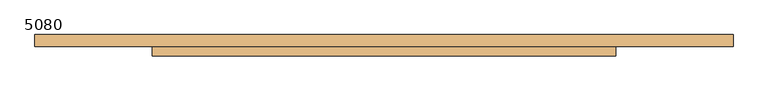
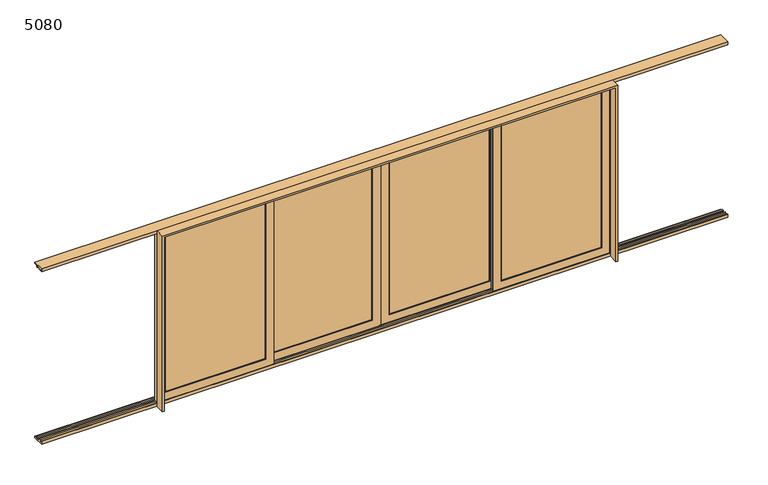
"""IFC4 building model written with IfcOpenShell, lengths in millimetres: door geometry, SGD 4 Panel 2 Track Opposing Exo : 5080."""

from ifc_helpers import new_model, si_unit, frame, origin, place, context, project, spatial, polyline, outline, extrude, faceted_brep, source, transform, mapped, element, save


def door_5080_ef8a3742(model_context):
    return source(origin(), model_context, "Body", "SolidModel", [
        extrude(outline(polyline([(66.675, 2395.7153), (66.675, 2438.4), (217.551, 2438.4), (217.551, 2418.9737224), (209.55, 2418.9737224), (180.975, 2418.1256362), (180.975, 2395.7153), (161.925, 2395.7153), (161.925, 2415.7381969), (120.65, 2415.0164373), (120.65, 2395.7153), (101.6, 2395.7153), (101.6, 2420.5575935), (73.025, 2420.058815), (73.025, 2395.7153), (66.675, 2395.7153)])), frame((-4500.5625, 0.0, 0.0), z_axis=(1.0, 0.0, 0.0), x_axis=(0.0, 1.0, 0.0)), (0.0, 0.0, 1.0), 9001.125),
        extrude(outline(polyline([(66.675, 42.6847), (73.025, 42.6847), (73.025, 18.341185), (101.6, 17.8424065), (101.6, 42.6847), (120.65, 42.6847), (120.65, 23.3835627), (161.925, 22.6618031), (161.925, 42.6847), (180.975, 42.6847), (180.975, 20.2743638), (209.55, 19.4262776), (217.551, 19.4262776), (217.551, 0.0), (66.675, 0.0), (66.675, 42.6847)])), frame((-4500.5625, 0.0, 0.0), z_axis=(1.0, 0.0, 0.0), x_axis=(0.0, 1.0, 0.0)), (0.0, 0.0, 1.0), 9001.125),
        extrude(outline(polyline([(104.775, 184.610375), (1433.5125, 184.610375), (1433.5125, 159.210375), (104.775, 159.210375), (104.775, 184.610375)])), frame((0.0, 0.0, 130.175), z_axis=(0.0, 0.0, 1.0), x_axis=(1.0, 0.0, 0.0)), (0.0, 0.0, 1.0), 2178.05),
        faceted_brep([(1538.2875, 154.051, 2413.0), (1533.525, 149.2885, 2408.2375), (1533.525, 149.2885, 30.1625), (1538.2875, 154.051, 25.4), (4.7625, 149.2885, 2408.2375), (4.7625, 149.2885, 30.1625), (1428.0134, 149.2885, 135.6741), (110.2741, 149.2885, 135.6741), (110.2741, 149.2885, 2302.7259), (1428.0134, 149.2885, 2302.7259), (0.0, 154.051, 25.4), (1538.2875, 192.151, 2413.0), (1538.2875, 192.151, 25.4), (0.0, 192.151, 25.4), (1533.525, 196.9135, 2408.2375), (1533.525, 196.9135, 30.1625), (4.7625, 196.9135, 30.1625), (4.7625, 196.9135, 2408.2375), (1428.0134, 196.9135, 2302.7259), (110.2741, 196.9135, 2302.7259), (110.2741, 196.9135, 135.6741), (1428.0134, 196.9135, 135.6741), (1423.2509, 192.151, 2297.9634), (1423.2509, 192.151, 140.4366), (115.0366, 192.151, 140.4366), (1423.2509, 154.051, 2297.9634), (1423.2509, 154.051, 140.4366), (115.0366, 154.051, 140.4366), (0.0, 154.051, 2413.0), (0.0, 192.151, 2413.0), (115.0366, 192.151, 2297.9634), (115.0366, 154.051, 2297.9634)], [[[0, 1, 2, 3]], [[1, 4, 5, 2], [6, 7, 8, 9]], [[3, 2, 5, 10]], [[11, 0, 3, 12]], [[12, 3, 10, 13]], [[14, 11, 12, 15]], [[15, 12, 13, 16]], [[15, 16, 17, 14], [18, 19, 20, 21]], [[22, 18, 21, 23]], [[23, 21, 20, 24]], [[25, 22, 23, 26]], [[26, 23, 24, 27]], [[9, 25, 26, 6]], [[6, 26, 27, 7]], [[10, 5, 4, 28]], [[13, 10, 28, 29]], [[16, 13, 29, 17]], [[24, 20, 19, 30]], [[27, 24, 30, 31]], [[7, 27, 31, 8]], [[28, 4, 1, 0]], [[29, 28, 0, 11]], [[17, 29, 11, 14]], [[30, 19, 18, 22]], [[31, 30, 22, 25]], [[8, 31, 25, 9]]]),
        extrude(outline(polyline([(-1433.5125, 184.610375), (-104.775, 184.610375), (-104.775, 159.210375), (-1433.5125, 159.210375), (-1433.5125, 184.610375)])), frame((0.0, 0.0, 130.175), z_axis=(0.0, 0.0, 1.0), x_axis=(1.0, 0.0, 0.0)), (0.0, 0.0, 1.0), 2178.05),
        faceted_brep([(0.0, 154.051, 2413.0), (-4.7625, 149.2885, 2408.2375), (-4.7625, 149.2885, 30.1625), (0.0, 154.051, 25.4), (-1533.525, 149.2885, 2408.2375), (-1533.525, 149.2885, 30.1625), (-110.2741, 149.2885, 135.6741), (-1428.0134, 149.2885, 135.6741), (-1428.0134, 149.2885, 2302.7259), (-110.2741, 149.2885, 2302.7259), (-1538.2875, 154.051, 25.4), (0.0, 192.151, 2413.0), (0.0, 192.151, 25.4), (-1538.2875, 192.151, 25.4), (-4.7625, 196.9135, 2408.2375), (-4.7625, 196.9135, 30.1625), (-1533.525, 196.9135, 30.1625), (-1533.525, 196.9135, 2408.2375), (-110.2741, 196.9135, 2302.7259), (-1428.0134, 196.9135, 2302.7259), (-1428.0134, 196.9135, 135.6741), (-110.2741, 196.9135, 135.6741), (-115.0366, 192.151, 2297.9634), (-115.0366, 192.151, 140.4366), (-1423.2509, 192.151, 140.4366), (-115.0366, 154.051, 2297.9634), (-115.0366, 154.051, 140.4366), (-1423.2509, 154.051, 140.4366), (-1538.2875, 154.051, 2413.0), (-1538.2875, 192.151, 2413.0), (-1423.2509, 192.151, 2297.9634), (-1423.2509, 154.051, 2297.9634)], [[[0, 1, 2, 3]], [[1, 4, 5, 2], [6, 7, 8, 9]], [[3, 2, 5, 10]], [[11, 0, 3, 12]], [[12, 3, 10, 13]], [[14, 11, 12, 15]], [[15, 12, 13, 16]], [[15, 16, 17, 14], [18, 19, 20, 21]], [[22, 18, 21, 23]], [[23, 21, 20, 24]], [[25, 22, 23, 26]], [[26, 23, 24, 27]], [[9, 25, 26, 6]], [[6, 26, 27, 7]], [[10, 5, 4, 28]], [[13, 10, 28, 29]], [[16, 13, 29, 17]], [[24, 20, 19, 30]], [[27, 24, 30, 31]], [[7, 27, 31, 8]], [[28, 4, 1, 0]], [[29, 28, 0, 11]], [[17, 29, 11, 14]], [[30, 19, 18, 22]], [[31, 30, 22, 25]], [[8, 31, 25, 9]]]),
        extrude(outline(polyline([(1541.4625, 124.285375), (2870.2, 124.285375), (2870.2, 98.885375), (1541.4625, 98.885375), (1541.4625, 124.285375)])), frame((0.0, 0.0, 130.175), z_axis=(0.0, 0.0, 1.0), x_axis=(1.0, 0.0, 0.0)), (0.0, 0.0, 1.0), 2178.05),
        faceted_brep([(2974.975, 93.726, 2413.0), (2970.2125, 88.9635, 2408.2375), (2970.2125, 88.9635, 30.1625), (2974.975, 93.726, 25.4), (1441.45, 88.9635, 2408.2375), (1441.45, 88.9635, 30.1625), (2864.7009, 88.9635, 135.6741), (1546.9616, 88.9635, 135.6741), (1546.9616, 88.9635, 2302.7259), (2864.7009, 88.9635, 2302.7259), (1436.6875, 93.726, 25.4), (2974.975, 131.826, 2413.0), (2974.975, 131.826, 25.4), (1436.6875, 131.826, 25.4), (2970.2125, 136.5885, 2408.2375), (2970.2125, 136.5885, 30.1625), (1441.45, 136.5885, 30.1625), (1441.45, 136.5885, 2408.2375), (2864.7009, 136.5885, 2302.7259), (1546.9616, 136.5885, 2302.7259), (1546.9616, 136.5885, 135.6741), (2864.7009, 136.5885, 135.6741), (2859.9384, 131.826, 2297.9634), (2859.9384, 131.826, 140.4366), (1551.7241, 131.826, 140.4366), (2859.9384, 93.726, 2297.9634), (2859.9384, 93.726, 140.4366), (1551.7241, 93.726, 140.4366), (1436.6875, 93.726, 2413.0), (1436.6875, 131.826, 2413.0), (1551.7241, 131.826, 2297.9634), (1551.7241, 93.726, 2297.9634)], [[[0, 1, 2, 3]], [[1, 4, 5, 2], [6, 7, 8, 9]], [[3, 2, 5, 10]], [[11, 0, 3, 12]], [[12, 3, 10, 13]], [[14, 11, 12, 15]], [[15, 12, 13, 16]], [[15, 16, 17, 14], [18, 19, 20, 21]], [[22, 18, 21, 23]], [[23, 21, 20, 24]], [[25, 22, 23, 26]], [[26, 23, 24, 27]], [[9, 25, 26, 6]], [[6, 26, 27, 7]], [[10, 5, 4, 28]], [[13, 10, 28, 29]], [[16, 13, 29, 17]], [[24, 20, 19, 30]], [[27, 24, 30, 31]], [[7, 27, 31, 8]], [[28, 4, 1, 0]], [[29, 28, 0, 11]], [[17, 29, 11, 14]], [[30, 19, 18, 22]], [[31, 30, 22, 25]], [[8, 31, 25, 9]]]),
        extrude(outline(polyline([(-2870.2, 124.285375), (-1541.4625, 124.285375), (-1541.4625, 98.885375), (-2870.2, 98.885375), (-2870.2, 124.285375)])), frame((0.0, 0.0, 130.175), z_axis=(0.0, 0.0, 1.0), x_axis=(1.0, 0.0, 0.0)), (0.0, 0.0, 1.0), 2178.05),
        faceted_brep([(-1436.6875, 93.726, 2413.0), (-1441.45, 88.9635, 2408.2375), (-1441.45, 88.9635, 30.1625), (-1436.6875, 93.726, 25.4), (-2970.2125, 88.9635, 2408.2375), (-2970.2125, 88.9635, 30.1625), (-1546.9616, 88.9635, 135.6741), (-2864.7009, 88.9635, 135.6741), (-2864.7009, 88.9635, 2302.7259), (-1546.9616, 88.9635, 2302.7259), (-2974.975, 93.726, 25.4), (-1436.6875, 131.826, 2413.0), (-1436.6875, 131.826, 25.4), (-2974.975, 131.826, 25.4), (-1441.45, 136.5885, 2408.2375), (-1441.45, 136.5885, 30.1625), (-2970.2125, 136.5885, 30.1625), (-2970.2125, 136.5885, 2408.2375), (-1546.9616, 136.5885, 2302.7259), (-2864.7009, 136.5885, 2302.7259), (-2864.7009, 136.5885, 135.6741), (-1546.9616, 136.5885, 135.6741), (-1551.7241, 131.826, 2297.9634), (-1551.7241, 131.826, 140.4366), (-2859.9384, 131.826, 140.4366), (-1551.7241, 93.726, 2297.9634), (-1551.7241, 93.726, 140.4366), (-2859.9384, 93.726, 140.4366), (-2974.975, 93.726, 2413.0), (-2974.975, 131.826, 2413.0), (-2859.9384, 131.826, 2297.9634), (-2859.9384, 93.726, 2297.9634)], [[[0, 1, 2, 3]], [[1, 4, 5, 2], [6, 7, 8, 9]], [[3, 2, 5, 10]], [[11, 0, 3, 12]], [[12, 3, 10, 13]], [[14, 11, 12, 15]], [[15, 12, 13, 16]], [[15, 16, 17, 14], [18, 19, 20, 21]], [[22, 18, 21, 23]], [[23, 21, 20, 24]], [[25, 22, 23, 26]], [[26, 23, 24, 27]], [[9, 25, 26, 6]], [[6, 26, 27, 7]], [[10, 5, 4, 28]], [[13, 10, 28, 29]], [[16, 13, 29, 17]], [[24, 20, 19, 30]], [[27, 24, 30, 31]], [[7, 27, 31, 8]], [[28, 4, 1, 0]], [[29, 28, 0, 11]], [[17, 29, 11, 14]], [[30, 19, 18, 22]], [[31, 30, 22, 25]], [[8, 31, 25, 9]]]),
        extrude(outline(polyline([(0.0, 2987.675), (2438.4, 2987.675), (2438.4, -2987.675), (0.0, -2987.675), (0.0, -2962.275), (2413.0, -2962.275), (2413.0, 2962.275), (0.0, 2962.275), (0.0, 2987.675)])), frame((0.0, -60.325, 0.0), z_axis=(0.0, 1.0, 0.0), x_axis=(0.0, 0.0, 1.0)), (0.0, 0.0, 1.0), 120.65),
    ])


if __name__ == "__main__":
    model = new_model("IFC4")
    model_context = context("Model", 3, world=origin())
    ifc_project = project(units=[si_unit("LENGTHUNIT", "METRE", prefix="MILLI")], contexts=[model_context])
    site = spatial("IfcSite", under=ifc_project)
    building = spatial("IfcBuilding", under=site)
    placement = place(None, origin())
    door_5080_shape = door_5080_ef8a3742(model_context)
    element("IfcDoor", 1, ObjectType="SGD 4 Panel 2 Track Opposing Exo : 5080", at=placement, inside=building, context=model_context, shape_type="MappedRepresentation", body=[
        mapped(door_5080_shape, transform((0.0, 0.0, 0.0), x_axis=(1.0, 0.0, 0.0), y_axis=(0.0, 1.0, 0.0), z_axis=(0.0, 0.0, 1.0))),
    ])
    save(model, "model.ifc")
